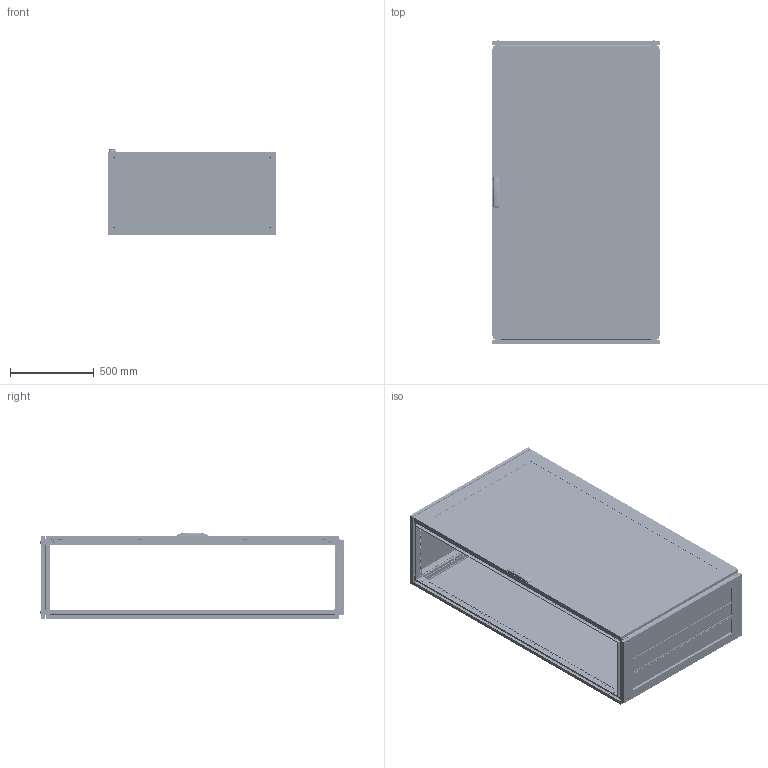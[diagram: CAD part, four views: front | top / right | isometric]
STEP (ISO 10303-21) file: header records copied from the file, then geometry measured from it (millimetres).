
FILE_DESCRIPTION (( 'STEP AP203' ), '1' );
FILE_NAME ('R5CQEN18105AX.STEP', '2025-05-07T11:53:41', ( '' ), ( '' ), 'SwSTEP 2.0', 'SolidWorks 2022', '' );
FILE_SCHEMA (( 'CONFIG_CONTROL_DESIGN' ));
Length unit declared in the file: millimetre
Products named in the file (65): M6x15 Erickson cl.4,8 Zinc; R5NCPTE - Assem simple_R5NCPTE18100; RB.1633.00.01.0 simple_-04; R5CQEN18105AX; RB.2499.01.00.0 СБ simple_-24; RB.2702.00.00.0 simple; AC00C446-R; RB.2969.00.01.0 simple; RB.2052.01.00.0 СБ simple_-19; Pin 4x16 DIN 7 AISI 303 (A1) simple; 7 DIN 6799 Zinc; RB.2455.00.00.0 simple_-04; RB.2457.00.00.0 СБ simple_-25; RB.0528.04.01.0 simple; PF 7x14 CRE simple_1800x1000; RB.0528.04.00.0 СБ simple; RB.1867.01.00.0 СБ simple_-59; R5NCRE-Assem simple_R5NCRE18100; RB.2052.00.00.0 СБ simple_-19; 4,0x16 F Torx Zinc (ART 88200)_thread; 4.8x13 DIN 7981 PH Zinc_straight; RB.0562.00.00.0 СБ simple_-14; R5NKTB - Assem simple_H=1800 R5NKTB105; 7 DIN 6799 Zinc simple; Glue CPTE simple_1800x1000; RB.1957.00.00.0 simple_-15; RB.2680.00.00.0 СБ simple; RB.2696.00.00.0 simple; RB.0562.01.01.0 simple_-14; M6x10 DIN 7500 M Torx cl.5.8 Zinc_straight; RB.0054.01.01.0 simple_-19; M6 MGR-MKO-0625 simple_Thread; R5NKMN - Assem simple_R5NKMN18 (1000х500); RB.0562.01.00.0 СБ simple_-14; RB.2456.00.00.0 simple_-01; RB.1633.00.02.0 simple_-01; RB.2680.00.01.0 simple; RB.2528.00.00.0 simple_-04; M6 DIN 985 cl.6,0 Zinc_straight; RB.2357.00.00.0 simple_-07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
Assembly tree (176 placements, depth 5):
  R5CQEN18105AX
    R5NCPTE - Assem simple_R5NCPTE18100
      RB.0562.00.00.0 СБ simple_-14
        RB.0562.01.00.0 СБ simple_-14
          RB.0562.01.01.0 simple_-14
          М6х12 A5100231_straight  x9
          RB.2702.00.00.0 simple  x4
          PF 7,5x15 CPE simple_1800x1000
          Glass CPTE_1800x1000
          Glue CPTE simple_1800x1000
        Square cap 20x20 simple  x2
        M6x15 Erickson cl.4,8 Zinc  x3
        RB.0528.00.01.0 simple_-04  x2
        ATOS Traction guide ILY03.35  x4
        RB.2357.00.00.0 simple_-07
        RB.2680.00.00.0 СБ simple
          TPA.08.0139.00.01.0 simple
          RB.2680.00.01.0 simple
          RB.2680.00.02.0 simple  x2
        TPA.08.0139.00.03.0  x2
        M6 DIN 985 cl.6,0 Zinc_straight  x4
        4,0x16 F Torx Zinc (ART 88200)_thread  x2
        RB.0528.04.00.0 СБ simple  x2
          RB.0528.04.01.0 simple
          Pressing stud FH-M6-12_M6x12mm
      M6x10 DIN 912 HX cl.8,8 Zinc_straight  x8
      4.8x13 DIN 7981 PH Zinc_straight
      7 DIN 6799 Zinc simple  x4
      RB.2968.00.00.0 simple  x4
      RB.2969.00.00.0 СБ simple  x4
        RB.2969.00.01.0 simple
        Pin 4x16 DIN 7 AISI 303 (A1) simple
        M6 MGR-MKO-0625 simple_Thread
      AC00C446-R
      RB.2696.00.00.0 simple  x4
      7 DIN 6799 Zinc  x4
    R5NCRE-Assem simple_R5NCRE18100
      RB.2052.00.00.0 СБ simple_-19
        RB.2052.01.00.0 СБ simple_-19
          RB.0054.01.01.0 simple_-19
          М6х12 A5100231_straight  x4
        PF 7x14 CRE simple_1800x1000
      RB.2172.00.00.1 simple  x8
      M6x10 DIN 7500 E HX cl.5.8 Zinc_straight  x8
      M6x10 DIN 7500 M Torx cl.5.8 Zinc_straight  x8
    R5NKMN - Assem simple_R5NKMN18 (1000х500)
      RB.2528.00.00.0 simple_-04  x4
    R5NKTB - Assem simple_H=1800 R5NKTB105
      RB.2499.00.00.0 СБ simple_-25
        RB.2499.01.00.0 СБ simple_-24
          RB.1633.00.01.0 simple_-04  x2
          RB.1633.00.02.0 simple_-01  x2
          PF 5x10 KTB simple_1000х500
        RB.2457.00.00.0 СБ simple_-25
          RB.2455.00.00.0 simple_-04  x2
          RB.2456.00.00.0 simple_-01  x2
          TPA.08.0084.00.00.0 simple  x2
          TPA.08.0083.00.00.0 simple  x2
          M8x12 AC00C476 cl.8,8 Zinc_stright  x4
        RB.1957.00.00.0 simple_-15  x3
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Bounding box: 1000 x 1813.3 x 514.74 mm (x, y, z)
Volume: 19396365.4 mm3; surface area: 16415906 mm2
Topology: 179 solids, 195 shells, 22557 faces, 63991 edges, 42148 vertices
Faces by surface type: plane 12523, cylinder 8483, cone 714, bspline 435, torus 368, sphere 34
Entity records: 225585 total; most frequent: CARTESIAN_POINT 55562, ORIENTED_EDGE 33690, DIRECTION 32209, EDGE_CURVE 16871, VERTEX_POINT 11170, AXIS2_PLACEMENT_3D 10840, LINE 10529, VECTOR 10529
